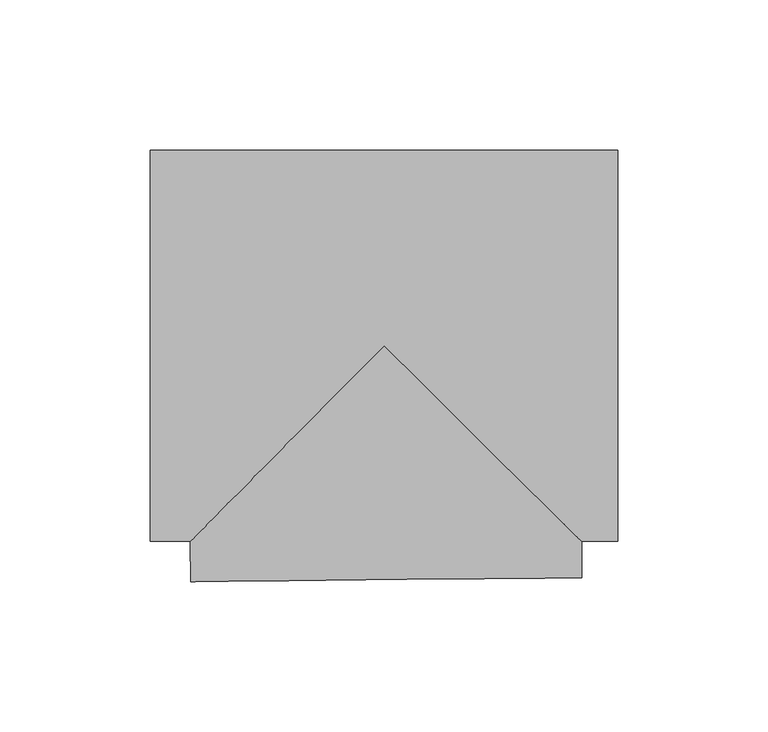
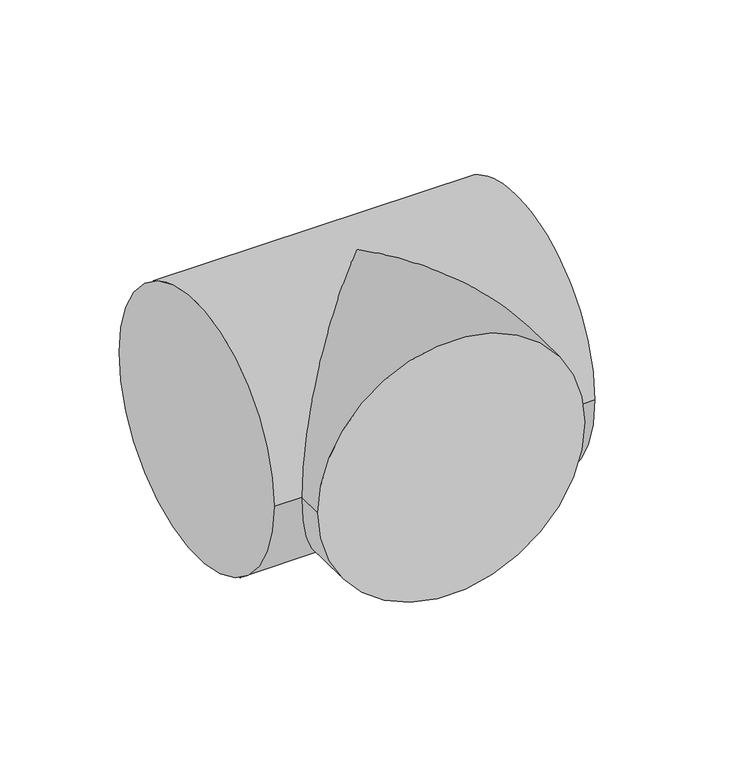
"""IFC4 building model written with IfcOpenShell, lengths in millimetres: pipe fitting geometry, M_Te - Genérica : Estándar."""

import ifcopenshell
import ifcopenshell.guid

model = None  # the IFC model being written
_history = None  # IfcOwnerHistory: only IFC2X3 demands one
_inside = {}  # id of a spatial element -> (the spatial element, [elements in it])
_under = {}  # id of a project, library or spatial element -> (it, [spatial elements below it])
_declared = {}  # id of a project -> (the project, [libraries it declares])
_typed = {}  # id of a type object -> (the type object, [elements of that type])
_made_of = {}  # id of a material, layer set ... -> (it, [elements and type objects made of it])


def new_model(schema):
    """Start an empty IFC model of exactly this schema.

    Asked for "IFC4X3", IfcOpenShell would pick the latest addendum, in which some entities
    have other attributes; the version numbers below select the first issue.
    IFC2X3 requires an IfcOwnerHistory on every rooted entity: one is made here for all.
    """
    global model, _history
    if schema == "IFC4X3":
        model = ifcopenshell.file(schema_version=(4, 3, 0, 0))
    else:
        model = ifcopenshell.file(schema=schema)
    _inside.clear()
    _under.clear()
    _declared.clear()
    _typed.clear()
    _made_of.clear()
    _history = None
    if model.schema == "IFC2X3":
        org = make("IfcOrganization", Name="unknown")
        user = make(
            "IfcPersonAndOrganization",
            ThePerson=make("IfcPerson", FamilyName="unknown"),
            TheOrganization=org,
        )
        app = make(
            "IfcApplication",
            ApplicationDeveloper=org,
            Version="unknown",
            ApplicationFullName="unknown",
            ApplicationIdentifier="unknown",
        )
        _history = make(
            "IfcOwnerHistory",
            OwningUser=user,
            OwningApplication=app,
            ChangeAction="ADDED",
            CreationDate=0,
        )
    return model


def make(cls, **values):
    """One entity of the class cls with the attributes given. An attribute that is None is left unset."""
    return model.create_entity(
        cls, **{name: value for name, value in values.items() if value is not None}
    )


def rooted(cls, **values):
    """An entity with a GlobalId (a new one), such as an element, a storey or a relation."""
    return make(cls, GlobalId=ifcopenshell.guid.new(), OwnerHistory=_history, **values)


def si_unit(unit_type, name, prefix=None):
    """IfcSIUnit, for example si_unit("LENGTHUNIT", "METRE", prefix="MILLI")."""
    return make("IfcSIUnit", UnitType=unit_type, Prefix=prefix, Name=name)


def assignment(units):
    """IfcUnitAssignment: the units of a project."""
    return None if units is None else make("IfcUnitAssignment", Units=units)


def point(xyz):
    """IfcCartesianPoint."""
    return None if xyz is None else make("IfcCartesianPoint", Coordinates=xyz)


def direction(xyz):
    """IfcDirection."""
    return None if xyz is None else make("IfcDirection", DirectionRatios=xyz)


def frame(location, z_axis=None, x_axis=None):
    """IfcAxis2Placement3D, a coordinate frame: its origin and axes. An axis left out is left unset."""
    return make(
        "IfcAxis2Placement3D",
        Location=point(location),
        Axis=direction(z_axis),
        RefDirection=direction(x_axis),
    )


def origin():
    """The frame at (0, 0, 0) with its axes left unset."""
    return frame((0.0, 0.0, 0.0))


def place(relative_to, where):
    """IfcLocalPlacement: puts the frame where relative to a parent placement (None: the world)."""
    return make(
        "IfcLocalPlacement", PlacementRelTo=relative_to, RelativePlacement=where
    )


def context(
    kind, dimensions, precision=None, world=None, true_north=None, identifier=None
):
    """IfcGeometricRepresentationContext, for example the 3D "Model" context."""
    return make(
        "IfcGeometricRepresentationContext",
        ContextIdentifier=identifier,
        ContextType=kind,
        CoordinateSpaceDimension=dimensions,
        Precision=precision,
        WorldCoordinateSystem=world,
        TrueNorth=true_north,
    )


def project(units=None, contexts=None):
    """IfcProject with its units and contexts."""
    return rooted(
        "IfcProject",
        Name="project",
        RepresentationContexts=contexts,
        UnitsInContext=assignment(units),
    )


def spatial(cls, under=None, at=None, **own):
    """A site, building, storey or space (cls), placed at a placement, below another one or the project."""
    s = rooted(cls, ObjectPlacement=at, **own)
    if under is not None:
        _under.setdefault(under.id(), (under, []))[1].append(s)
    return s


def circle_curve(where, radius):
    """IfcCircle in the frame where."""
    return make("IfcCircle", Position=where, Radius=radius)


def ellipse_curve(where, semi_axis1, semi_axis2):
    """IfcEllipse in the frame where."""
    return make(
        "IfcEllipse", Position=where, SemiAxis1=semi_axis1, SemiAxis2=semi_axis2
    )


def shape(context_of_items, identifier, shape_type, items):
    """IfcShapeRepresentation: the items that make up one representation, for example the "Body"."""
    return make(
        "IfcShapeRepresentation",
        ContextOfItems=context_of_items,
        RepresentationIdentifier=identifier,
        RepresentationType=shape_type,
        Items=items,
    )


def source(mapping_origin, context_of_items, identifier, shape_type, items):
    """IfcRepresentationMap: a shape defined once, which mapped items show again and again."""
    return make(
        "IfcRepresentationMap",
        MappingOrigin=mapping_origin,
        MappedRepresentation=shape(context_of_items, identifier, shape_type, items),
    )


def transform(
    local_origin,
    x_axis=None,
    y_axis=None,
    z_axis=None,
    scale=None,
    scale2=None,
    scale3=None,
    uniform=True,
):
    """IfcCartesianTransformationOperator3D, or its non-uniform kind. x_axis, y_axis, z_axis: its Axis1, 2, 3."""
    if uniform:
        return make(
            "IfcCartesianTransformationOperator3D",
            Axis1=direction(x_axis),
            Axis2=direction(y_axis),
            LocalOrigin=point(local_origin),
            Scale=scale,
            Axis3=direction(z_axis),
        )
    return make(
        "IfcCartesianTransformationOperator3DnonUniform",
        Axis1=direction(x_axis),
        Axis2=direction(y_axis),
        LocalOrigin=point(local_origin),
        Scale=scale,
        Axis3=direction(z_axis),
        Scale2=scale2,
        Scale3=scale3,
    )


def mapped(mapping_source, mapping_target):
    """IfcMappedItem: shows the shape of a source again, moved by a transform."""
    return make(
        "IfcMappedItem", MappingSource=mapping_source, MappingTarget=mapping_target
    )


def made_of(thing, what):
    """Note that an element or type object is made of a material, layer set ...; save() writes the relation."""
    if what is not None:
        _made_of.setdefault(what.id(), (what, []))[1].append(thing)
    return thing


def element(
    cls,
    number,
    at=None,
    inside=None,
    cuts=None,
    type_object=None,
    material=None,
    context=None,
    identifier="Body",
    shape_type=None,
    held_by="IfcProductDefinitionShape",
    body=None,
    shapes=None,
    **own,
):
    """One element of the class cls, such as IfcWall. Its Tag is "e" and its number.

    at: its placement. inside: the storey or other place that contains it. cuts: it is an
    opening in that element (IfcRelVoidsElement). A single representation is given by context,
    identifier, shape_type and body (its items); several are given by shapes. held_by: the class
    of the entity that holds the representations. save() writes the other relations.
    """
    e = rooted(cls, Tag="e%d" % number, ObjectPlacement=at, **own)
    if body is not None:
        shapes = [shape(context, identifier, shape_type, body)]
    if shapes is not None:
        e.Representation = make(held_by, Representations=shapes)
    if inside is not None:
        _inside.setdefault(inside.id(), (inside, []))[1].append(e)
    if cuts is not None:
        rooted(
            "IfcRelVoidsElement", RelatingBuildingElement=cuts, RelatedOpeningElement=e
        )
    if type_object is not None:
        _typed.setdefault(type_object.id(), (type_object, []))[1].append(e)
    return made_of(e, material)


def aggregate(whole, parts):
    """IfcRelAggregates: a whole, such as a stair, and the parts it consists of."""
    return rooted("IfcRelAggregates", RelatingObject=whole, RelatedObjects=parts)


def save(model, path):
    """Write the relations noted so far, then the file.

    IfcRelAggregates (storeys below a building ...), IfcRelContainedInSpatialStructure (elements
    in a storey), IfcRelDefinesByType, IfcRelAssociatesMaterial and IfcRelDeclares: one each for
    every whole, place, type object, material and project.
    """
    for whole, parts in _under.values():
        aggregate(whole, parts)
    for where, things in _inside.values():
        rooted(
            "IfcRelContainedInSpatialStructure",
            RelatedElements=things,
            RelatingStructure=where,
        )
    for kind, things in _typed.values():
        rooted("IfcRelDefinesByType", RelatedObjects=things, RelatingType=kind)
    for what, things in _made_of.values():
        rooted("IfcRelAssociatesMaterial", RelatedObjects=things, RelatingMaterial=what)
    for by, libraries in _declared.values():
        rooted("IfcRelDeclares", RelatingContext=by, RelatedDefinitions=libraries)
    model.write(path)


def plane_surface(at):
    """IfcPlane: the flat surface through the origin of the frame at, square to its z axis."""
    return make("IfcPlane", Position=at)


def cylinder_surface(at, radius):
    """IfcCylindricalSurface: all points at the distance radius from the z axis of the frame at."""
    return make("IfcCylindricalSurface", Position=at, Radius=radius)


def advanced_brep(points, edges, surfaces, faces):
    """IfcAdvancedBrep: a solid bounded by faces that lie on surfaces and meet in shared edges.

    An edge is (start, end): straight between two places in points (the first is 0);
    or (start, end, curve); or (start, end, curve, False) where it runs against its curve.
    A face is (place in surfaces, loops), or (place, loops, False) where it looks against
    its surface's normal. A loop lists edges by number (the first is 1), with a minus sign
    where the edge is run from its end to its start. The first loop is the outer one.
    """
    corners = [point(p) for p in points]
    vertices = [make("IfcVertexPoint", VertexGeometry=c) for c in corners]
    made = []
    for start, end, *more in edges:
        made.append(
            make(
                "IfcEdgeCurve",
                EdgeStart=vertices[start],
                EdgeEnd=vertices[end],
                EdgeGeometry=more[0] if more else make("IfcPolyline", Points=[corners[start], corners[end]]),
                SameSense=more[1] if len(more) > 1 else True,
            )
        )
    hull = []
    for where, loops, *sense in faces:
        bounds = []
        for j, loop in enumerate(loops):
            ring = [make("IfcOrientedEdge", EdgeElement=made[abs(k) - 1], Orientation=k > 0) for k in loop]
            bounds.append(
                make(
                    "IfcFaceOuterBound" if j == 0 else "IfcFaceBound",
                    Bound=make("IfcEdgeLoop", EdgeList=ring),
                    Orientation=True,
                )
            )
        hull.append(make("IfcAdvancedFace", Bounds=bounds, FaceSurface=surfaces[where], SameSense=sense[0] if sense else True))
    return make("IfcAdvancedBrep", Outer=make("IfcClosedShell", CfsFaces=hull))


def pipe_fitting_b0133e01(model_context):
    return source(origin(), model_context, "Body", "AdvancedBrep", [
        advanced_brep(
        [(-77.7875, -65.0875, 0.0), (-77.7875, 65.0875, 0.0), (77.7875, -65.0875, 0.0), (77.7875, 65.0875, 0.0), (-64.4401914, -65.0875, 0.0), (0.0, 0.0, 65.0875), (65.7413109, -65.0875, 0.0), (0.0, 0.0, -65.0875), (-64.3067896, -78.4341419, 0.0), (65.8617084, -77.1330875, 0.0)],
        [
            (0, 1, circle_curve(frame((-77.7875, 0.0, 0.0), z_axis=(-1.0, 0.0, 0.0), x_axis=(0.0, 1.0, 0.0)), 65.0875)),
            (1, 0, circle_curve(frame((-77.7875, 0.0, 0.0), z_axis=(-1.0, 0.0, 0.0), x_axis=(0.0, 1.0, 0.0)), 65.0875)),
            (2, 3, circle_curve(frame((77.7875, 0.0, 0.0), z_axis=(1.0, 0.0, 0.0), x_axis=(0.0, 1.0, 0.0)), 65.0875)),
            (3, 2, circle_curve(frame((77.7875, 0.0, 0.0), z_axis=(1.0, 0.0, 0.0), x_axis=(0.0, 1.0, 0.0)), 65.0875)),
            (0, 4),
            (4, 5, ellipse_curve(frame((0.0, 0.0, 0.0), z_axis=(-0.7106316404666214, 0.7035642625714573, 0.0), x_axis=(-0.7035642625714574, -0.7106316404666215, 0.0)), 91.5910527, 65.0875)),
            (5, 6, ellipse_curve(frame((0.0, 0.0, 0.0), z_axis=(0.7035642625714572, 0.7106316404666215, 0.0), x_axis=(-0.7106316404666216, 0.7035642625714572, 0.0)), 92.5110945, 65.0875)),
            (6, 2),
            (3, 1),
            (6, 7, ellipse_curve(frame((0.0, 0.0, 0.0), z_axis=(0.7035642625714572, 0.7106316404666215, 0.0), x_axis=(-0.7106316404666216, 0.7035642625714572, 0.0)), 92.5110945, 65.0875)),
            (7, 4, ellipse_curve(frame((0.0, 0.0, 0.0), z_axis=(-0.7106316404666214, 0.7035642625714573, 0.0), x_axis=(-0.7035642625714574, -0.7106316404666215, 0.0)), 91.5910527, 65.0875)),
            (8, 9, circle_curve(frame((0.7774594, -77.7836147, 0.0), z_axis=(0.009994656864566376, -0.999950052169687, 0.0), x_axis=(0.999950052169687, 0.009994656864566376, 0.0)), 65.0875)),
            (9, 8, circle_curve(frame((0.7774594, -77.7836147, 0.0), z_axis=(0.009994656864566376, -0.999950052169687, 0.0), x_axis=(0.999950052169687, 0.009994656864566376, 0.0)), 65.0875)),
            (9, 6),
            (4, 8),
        ],
        [
            plane_surface(frame((-77.7875, 0.0, 0.0), z_axis=(-1.0, 0.0, 0.0), x_axis=(0.0, 0.0, 1.0))),
            plane_surface(frame((77.7875, 0.0, 0.0), z_axis=(1.0, 0.0, 0.0), x_axis=(0.0, 0.0, 1.0))),
            cylinder_surface(frame((-77.7875, 0.0, 0.0), z_axis=(-1.0, 0.0, 0.0), x_axis=(0.0, 1.0, 0.0)), 65.0875),
            plane_surface(frame((0.7774594, -77.7836147, 0.0), z_axis=(0.009994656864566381, -0.999950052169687, 0.0), x_axis=(0.0, 0.0, 1.0))),
            cylinder_surface(frame((0.0, 0.0, 0.0), z_axis=(-0.009994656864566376, 0.999950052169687, 0.0), x_axis=(0.999950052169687, 0.009994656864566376, 0.0)), 65.0875),
        ],
        [
            (0, [[1, 2]]),
            (1, [[3, 4]]),
            (2, [[-1, 5, 6, 7, 8, -4, 9]]),
            (2, [[-2, -9, -3, -8, 10, 11, -5]]),
            (3, [[12, 13]]),
            (4, [[-13, 14, -7, -6, 15]]),
            (4, [[-12, -15, -11, -10, -14]]),
        ],
    ),
    ])


if __name__ == "__main__":
    model = new_model("IFC4")
    model_context = context("Model", 3, world=origin())
    ifc_project = project(units=[si_unit("LENGTHUNIT", "METRE", prefix="MILLI")], contexts=[model_context])
    site = spatial("IfcSite", under=ifc_project)
    building = spatial("IfcBuilding", under=site)
    placement = place(None, origin())
    pipe_fitting_shape = pipe_fitting_b0133e01(model_context)
    element("IfcPipeFitting", 1, ObjectType="M_Te - Genérica : Estándar", at=placement, inside=building, context=model_context, shape_type="MappedRepresentation", body=[
        mapped(pipe_fitting_shape, transform((0.0, 0.0, 0.0), x_axis=(1.0, 0.0, 0.0), y_axis=(0.0, 1.0, 0.0), z_axis=(0.0, 0.0, 1.0))),
    ])
    save(model, "model.ifc")
